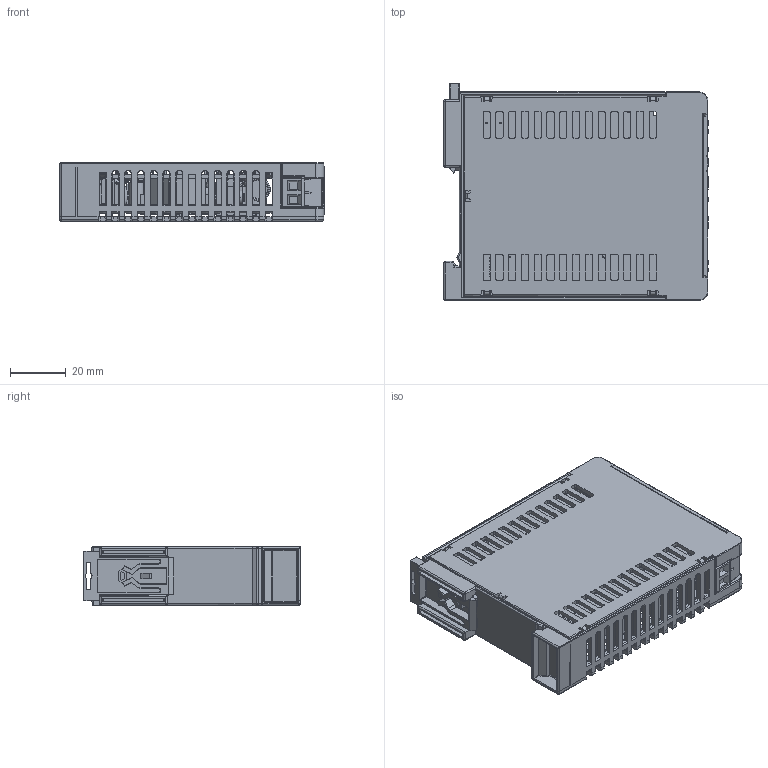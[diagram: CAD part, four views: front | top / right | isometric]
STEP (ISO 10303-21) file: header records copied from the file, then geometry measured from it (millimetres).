
FILE_DESCRIPTION((''),'2;1');
FILE_NAME('DRS_5V30W1NZ_ASM','2015-12-17T',('chaiyuth.aimy'),(''),'PRO/ENGINEER BY PARAMETRIC TECHNOLOGY CORPORATION, 2010180','PRO/ENGINEER BY PARAMETRIC TECHNOLOGY CORPORATION, 2010180','');
FILE_SCHEMA(('CONFIG_CONTROL_DESIGN','SHAPE_APPEARANCE_LAYERS_GROUPS'));
Products named in the file (49): 3302337902; 3306328800; 3421026502-1_1; PWB3__1; MAINBOARD15W; DRS-5V30W1AZ_PWB_LAYOUT_TOP; SOLDER_SIDE; DC_BOARD15W_AF0; DRS-5V30W1AZ_DC_TOP; DCT-S1; 307590717W; 307590707W; EE_VR15W; EE_LED15W; 307022146G; EE_C1; EE_C25; EE_C26; EE_C112; 334738590000; 3347385900_PIN1; 334738590000_ASM; EE_C111; EE_T1; EE_SD101; EE_L351; EE_CX1; EE_CX2; EE_NTC1; EE_R14; EE_R46; EE_J18; EE_NTC31; EE_FL1; EE_BD1; EE_F1; EE_Q1; EE_CY4; EE_CY3; 3105451900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
Assembly tree (52 placements, depth 4):
  DRS_5V30W1NZ_ASM
    3302337902
    3306328800
    3421026502-1_1
    PWB3__1
    ASSY_MAINBOARD_15W_ASM
      MAINBOARD15W
      DRS-5V30W1AZ_PWB_LAYOUT_TOP
      SOLDER_SIDE
      DC_BOARD15W_AF0
      DRS-5V30W1AZ_DC_TOP
      DCT-S1
      307590717W
      307590707W
      EE_VR15W
      EE_LED15W
      307022146G
      EE_C1
      EE_C25
      EE_C26
      EE_C112
      334738590000_ASM
        334738590000
        3347385900_PIN1  x2
      EE_C111
      EE_T1
      EE_SD101
      EE_L351
      EE_CX1
      EE_CX2
      EE_NTC1  x2
      EE_R14
      EE_R46
      EE_J18
      EE_NTC31
      EE_FL1
      EE_BD1
      EE_F1
      EE_Q1
      EE_CY4
      EE_CY3  x2
      3105451900
      342950530101_CLIP_01
      307022136G
      307655086G
      307655076G
      TUBE_01  x2
      EE_J10
    LABEL
Bounding box: 95.1 x 78 x 21 mm (x, y, z)
Volume: 70535.2 mm3; surface area: 93260.6 mm2
Topology: 49 solids, 61 shells, 4867 faces, 12710 edges, 8058 vertices
Faces by surface type: plane 2716, cylinder 1078, extrusion 495, torus 250, bspline 190, cone 73, sphere 65
Entity records: 202667 total; most frequent: CARTESIAN_POINT 48881, ORIENTED_EDGE 24654, DIRECTION 20937, EDGE_CURVE 12327, PRESENTATION_STYLE_ASSIGNMENT 11361, STYLED_ITEM 10911, CURVE_STYLE 10544, VECTOR 8833
